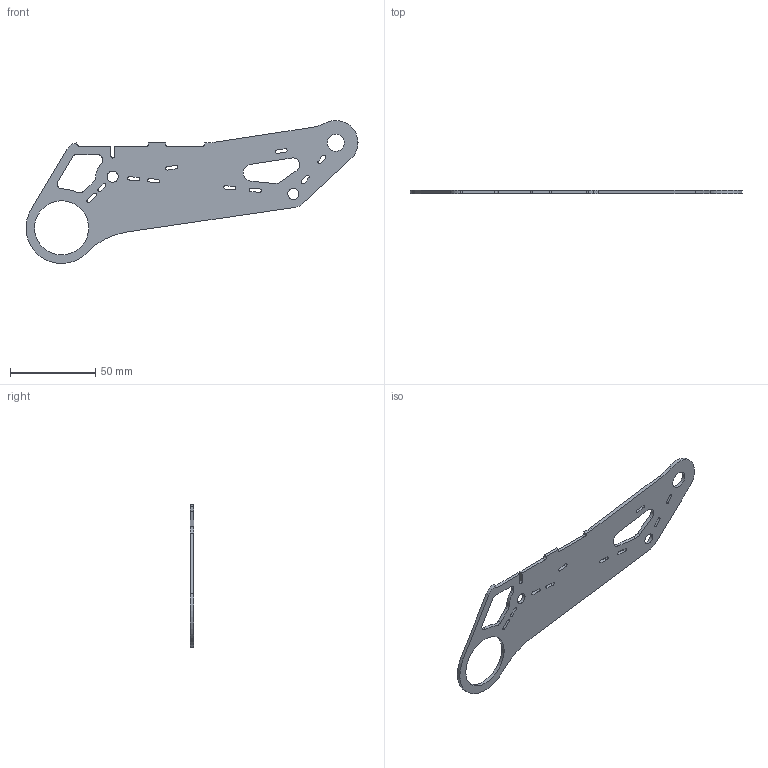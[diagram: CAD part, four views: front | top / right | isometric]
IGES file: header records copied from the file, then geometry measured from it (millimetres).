
Start section: START RECORD GO HERE.
Global section: file name: FR_10001_2 (Frame Brake).igs; native system: IBM CATIA IGES - CATIA Version 5 Release 19 ; preprocessor: CATIA Version 5 Release 19 ; author: jacqu; organization: ASUS-TUF-JACQUE; date: 20200226.092251; units: millimetre
Bounding box: 194.89 x 2 x 83.86 mm (x, y, z)
Surface area: 16042.1 mm2 (no closed solid volume)
Topology: 0 solids, 0 shells, 95 faces, 558 edges, 558 vertices
Faces by surface type: revolution 51, plane 44
